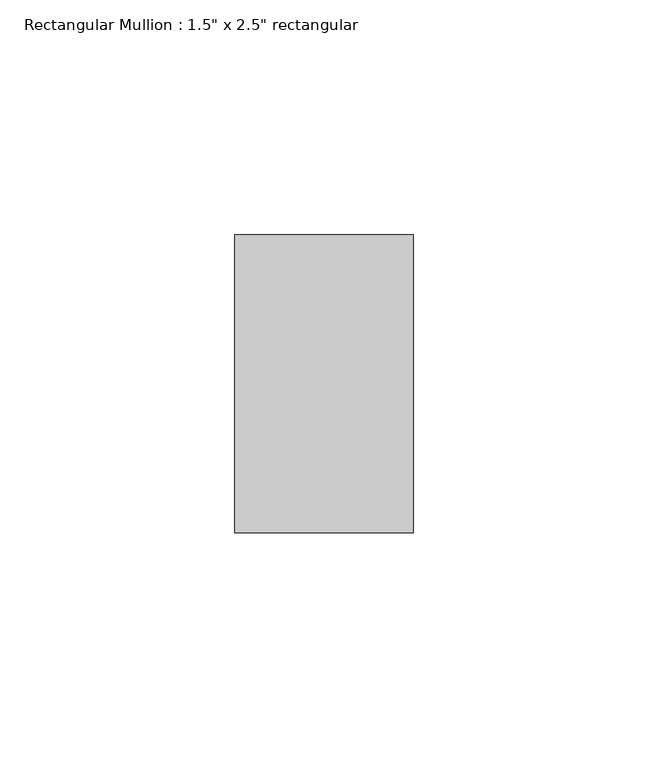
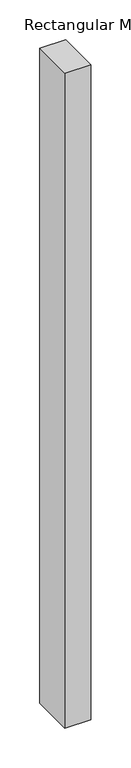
"""IFC4 building model written with IfcOpenShell, lengths in millimetres: member geometry."""

from ifc_helpers import new_model, si_unit, frame, origin, place, context, project, spatial, polyline, outline, extrude, source, transform, mapped, element, save


def member_5efed619(model_context):
    return source(origin(), model_context, "Body", "SweptSolid", [
        extrude(outline(polyline([(19.05, 31.75), (19.05, -31.75), (-19.05, -31.75), (-19.05, 31.75), (19.05, 31.75)])), frame((0.0, 0.0, -1009.65), z_axis=(0.0, 0.0, 1.0), x_axis=(1.0, 0.0, 0.0)), (0.0, 0.0, 1.0), 1009.65),
    ])


if __name__ == "__main__":
    model = new_model("IFC4")
    model_context = context("Model", 3, world=origin())
    ifc_project = project(units=[si_unit("LENGTHUNIT", "METRE", prefix="MILLI")], contexts=[model_context])
    site = spatial("IfcSite", under=ifc_project)
    building = spatial("IfcBuilding", under=site)
    placement = place(None, origin())
    member_shape = member_5efed619(model_context)
    element("IfcMember", 1, ObjectType="Rectangular Mullion : 1.5\" x 2.5\" rectangular", at=placement, inside=building, context=model_context, shape_type="MappedRepresentation", body=[
        mapped(member_shape, transform((0.0, 0.0, 0.0), x_axis=(1.0, 0.0, 0.0), y_axis=(0.0, 1.0, 0.0), z_axis=(0.0, 0.0, 1.0))),
    ])
    save(model, "model.ifc")
